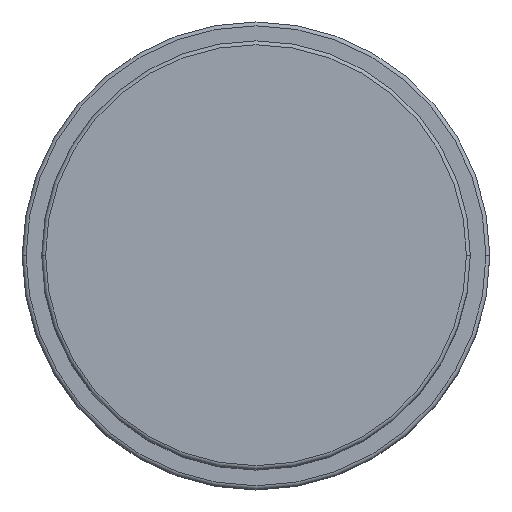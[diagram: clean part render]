
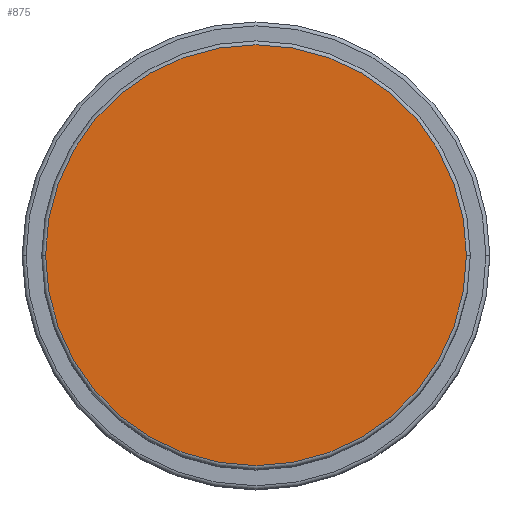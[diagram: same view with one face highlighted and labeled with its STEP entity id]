
A CAD part, top view. The second image highlights one B-rep face of the part: STEP entity #875.
In plain terms, the highlighted planar face has unit normal (0, 0, 1).
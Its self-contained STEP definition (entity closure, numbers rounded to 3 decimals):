
#1 = EDGE_CURVE ( 'NONE', #694, #629, #168, .T. ) ;
#110 = CARTESIAN_POINT ( 'NONE',  ( 0., 0., 71. ) ) ;
#168 = CIRCLE ( 'NONE', #1900, 27. ) ;
#286 = AXIS2_PLACEMENT_3D ( 'NONE', #110, #866, #398 ) ;
#398 = DIRECTION ( 'NONE',  ( 1., 0., 0. ) ) ;
#434 = AXIS2_PLACEMENT_3D ( 'NONE', #1249, #1404, #792 ) ;
#460 = DIRECTION ( 'NONE',  ( 0., 0., 1. ) ) ;
#564 = CARTESIAN_POINT ( 'NONE',  ( 27., 0., 71. ) ) ;
#629 = VERTEX_POINT ( 'NONE', #1581 ) ;
#630 = EDGE_LOOP ( 'NONE', ( #1455, #805 ) ) ;
#694 = VERTEX_POINT ( 'NONE', #564 ) ;
#792 = DIRECTION ( 'NONE',  ( 1., 0., 0. ) ) ;
#805 = ORIENTED_EDGE ( 'NONE', *, *, #1730, .T. ) ;
#866 = DIRECTION ( 'NONE',  ( 0., 0., 1. ) ) ;
#875 = ADVANCED_FACE ( 'NONE', ( #1221 ), #1639, .T. ) ;
#1098 = CIRCLE ( 'NONE', #434, 27. ) ;
#1221 = FACE_OUTER_BOUND ( 'NONE', #630, .T. ) ;
#1249 = CARTESIAN_POINT ( 'NONE',  ( 0., 0., 71. ) ) ;
#1404 = DIRECTION ( 'NONE',  ( 0., 0., 1. ) ) ;
#1407 = DIRECTION ( 'NONE',  ( 1., 0., 0. ) ) ;
#1455 = ORIENTED_EDGE ( 'NONE', *, *, #1, .T. ) ;
#1518 = CARTESIAN_POINT ( 'NONE',  ( 0., 0., 71. ) ) ;
#1581 = CARTESIAN_POINT ( 'NONE',  ( -27., 0., 71. ) ) ;
#1639 = PLANE ( 'NONE',  #286 ) ;
#1730 = EDGE_CURVE ( 'NONE', #629, #694, #1098, .T. ) ;
#1900 = AXIS2_PLACEMENT_3D ( 'NONE', #1518, #460, #1407 ) ;
